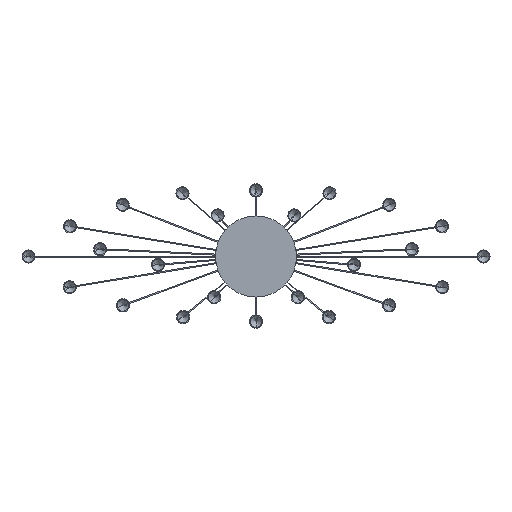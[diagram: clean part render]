
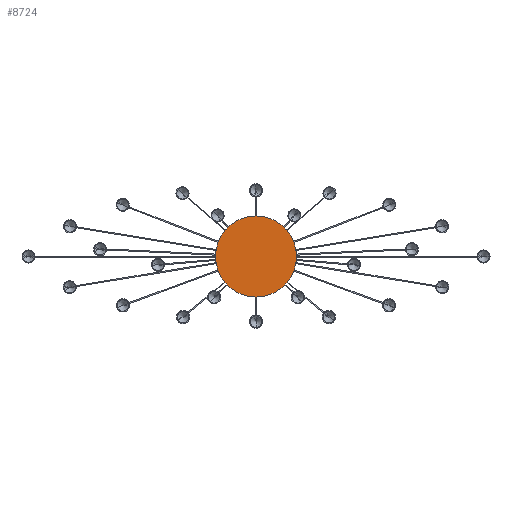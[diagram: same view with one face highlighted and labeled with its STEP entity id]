
A CAD part, front view. The second image highlights one B-rep face of the part: STEP entity #8724.
In plain terms, the highlighted planar face has unit normal (0, -1, 0).
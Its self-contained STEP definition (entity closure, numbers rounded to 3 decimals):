
#682 = CIRCLE ( 'NONE', #12811, 155. ) ;
#1392 = CARTESIAN_POINT ( 'NONE',  ( 0., 0., 155. ) ) ;
#1479 = DIRECTION ( 'NONE',  ( 0., 0., 1. ) ) ;
#1537 = PLANE ( 'NONE',  #9548 ) ;
#1556 = CARTESIAN_POINT ( 'NONE',  ( 0., 0., 0. ) ) ;
#2451 = FACE_OUTER_BOUND ( 'NONE', #11373, .T. ) ;
#2472 = EDGE_CURVE ( 'NONE', #8129, #6118, #5846, .T. ) ;
#3363 = AXIS2_PLACEMENT_3D ( 'NONE', #5302, #9291, #4331 ) ;
#4331 = DIRECTION ( 'NONE',  ( 0., 0., 1. ) ) ;
#4687 = ORIENTED_EDGE ( 'NONE', *, *, #11171, .F. ) ;
#5302 = CARTESIAN_POINT ( 'NONE',  ( 0., 0., 0. ) ) ;
#5355 = DIRECTION ( 'NONE',  ( 0., 0., 1. ) ) ;
#5711 = CARTESIAN_POINT ( 'NONE',  ( 0., 0., -155. ) ) ;
#5846 = CIRCLE ( 'NONE', #3363, 155. ) ;
#6118 = VERTEX_POINT ( 'NONE', #1392 ) ;
#6451 = CARTESIAN_POINT ( 'NONE',  ( 0., 0., 0. ) ) ;
#7352 = ORIENTED_EDGE ( 'NONE', *, *, #2472, .F. ) ;
#7453 = DIRECTION ( 'NONE',  ( 0., 1., 0. ) ) ;
#8129 = VERTEX_POINT ( 'NONE', #5711 ) ;
#8724 = ADVANCED_FACE ( 'NONE', ( #2451 ), #1537, .F. ) ;
#9291 = DIRECTION ( 'NONE',  ( 0., 1., 0. ) ) ;
#9548 = AXIS2_PLACEMENT_3D ( 'NONE', #6451, #7453, #1479 ) ;
#11171 = EDGE_CURVE ( 'NONE', #6118, #8129, #682, .T. ) ;
#11373 = EDGE_LOOP ( 'NONE', ( #7352, #4687 ) ) ;
#12477 = DIRECTION ( 'NONE',  ( 0., 1., 0. ) ) ;
#12811 = AXIS2_PLACEMENT_3D ( 'NONE', #1556, #12477, #5355 ) ;
